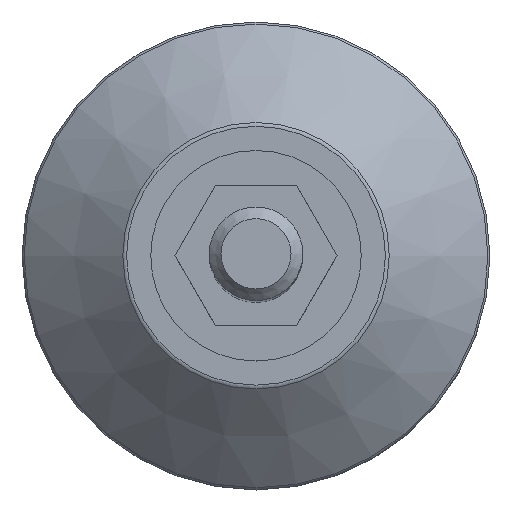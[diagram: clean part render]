
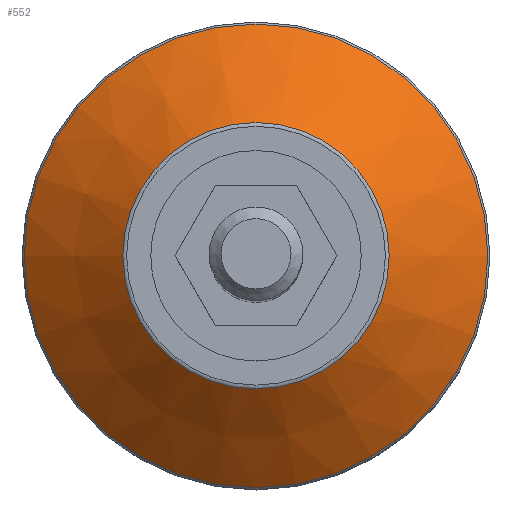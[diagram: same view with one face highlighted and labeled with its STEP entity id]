
A CAD part, top view. The second image highlights one B-rep face of the part: STEP entity #552.
In plain terms, the highlighted conical face has half-angle 49.399 degrees and reference radius 31.216 mm.
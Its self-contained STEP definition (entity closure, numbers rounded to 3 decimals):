
#50=CONICAL_SURFACE('',#622,31.216,49.399);
#102=FACE_BOUND('',#203,.T.);
#142=FACE_OUTER_BOUND('',#202,.T.);
#202=EDGE_LOOP('',(#445));
#203=EDGE_LOOP('',(#446));
#280=CIRCLE('',#621,39.651);
#281=CIRCLE('',#623,22.781);
#326=VERTEX_POINT('',#942);
#327=VERTEX_POINT('',#945);
#378=EDGE_CURVE('',#326,#326,#280,.T.);
#379=EDGE_CURVE('',#327,#327,#281,.T.);
#445=ORIENTED_EDGE('',*,*,#378,.T.);
#446=ORIENTED_EDGE('',*,*,#379,.F.);
#552=ADVANCED_FACE('',(#142,#102),#50,.T.);
#621=AXIS2_PLACEMENT_3D('',#943,#737,#738);
#622=AXIS2_PLACEMENT_3D('',#944,#739,#740);
#623=AXIS2_PLACEMENT_3D('',#946,#741,#742);
#737=DIRECTION('center_axis',(0.,0.,1.));
#738=DIRECTION('ref_axis',(1.,0.,0.));
#739=DIRECTION('center_axis',(0.,0.,-1.));
#740=DIRECTION('ref_axis',(1.,0.,0.));
#741=DIRECTION('center_axis',(0.,0.,1.));
#742=DIRECTION('ref_axis',(1.,0.,0.));
#942=CARTESIAN_POINT('',(-40.551,2.551,-2.201));
#943=CARTESIAN_POINT('Origin',(-0.9,2.551,-2.201));
#944=CARTESIAN_POINT('Origin',(-0.9,2.551,5.029));
#945=CARTESIAN_POINT('',(-23.681,2.551,12.259));
#946=CARTESIAN_POINT('Origin',(-0.9,2.551,12.259));
